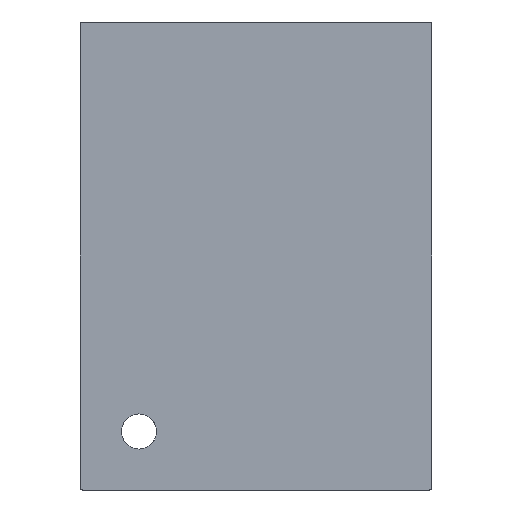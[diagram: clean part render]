
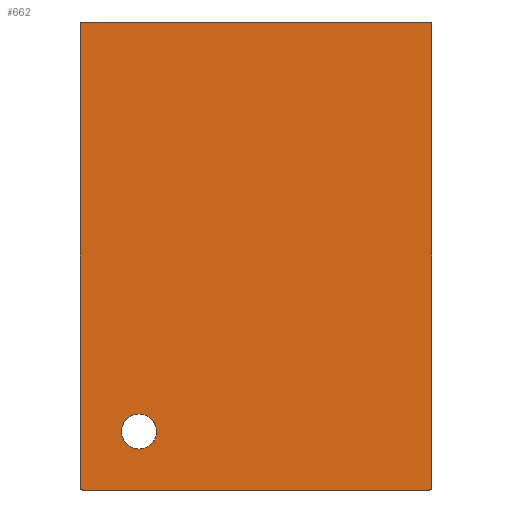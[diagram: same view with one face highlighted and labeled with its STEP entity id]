
A CAD part, front view. The second image highlights one B-rep face of the part: STEP entity #662.
In plain terms, the highlighted planar face has unit normal (0, -1, 0).
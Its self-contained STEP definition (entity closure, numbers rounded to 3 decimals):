
#28=FACE_BOUND('',#101,.T.);
#32=PLANE('',#727);
#53=FACE_OUTER_BOUND('',#100,.T.);
#100=EDGE_LOOP('',(#451,#452,#453,#454,#455,#456,#457,#458));
#101=EDGE_LOOP('',(#459));
#149=LINE('',#1057,#195);
#152=LINE('',#1063,#198);
#153=LINE('',#1067,#199);
#154=LINE('',#1071,#200);
#195=VECTOR('',#829,10.);
#198=VECTOR('',#834,10.);
#199=VECTOR('',#837,10.);
#200=VECTOR('',#840,10.);
#239=CIRCLE('',#721,5.);
#243=CIRCLE('',#728,5.);
#244=CIRCLE('',#729,5.);
#245=CIRCLE('',#730,5.);
#246=CIRCLE('',#731,45.);
#286=VERTEX_POINT('',#1043);
#287=VERTEX_POINT('',#1044);
#291=VERTEX_POINT('',#1056);
#293=VERTEX_POINT('',#1062);
#294=VERTEX_POINT('',#1064);
#295=VERTEX_POINT('',#1066);
#296=VERTEX_POINT('',#1068);
#297=VERTEX_POINT('',#1070);
#298=VERTEX_POINT('',#1073);
#341=EDGE_CURVE('',#286,#287,#239,.T.);
#347=EDGE_CURVE('',#291,#287,#149,.T.);
#350=EDGE_CURVE('',#286,#293,#152,.T.);
#351=EDGE_CURVE('',#294,#293,#243,.T.);
#352=EDGE_CURVE('',#294,#295,#153,.T.);
#353=EDGE_CURVE('',#296,#295,#244,.T.);
#354=EDGE_CURVE('',#296,#297,#154,.T.);
#355=EDGE_CURVE('',#291,#297,#245,.T.);
#356=EDGE_CURVE('',#298,#298,#246,.T.);
#451=ORIENTED_EDGE('',*,*,#341,.F.);
#452=ORIENTED_EDGE('',*,*,#350,.T.);
#453=ORIENTED_EDGE('',*,*,#351,.F.);
#454=ORIENTED_EDGE('',*,*,#352,.T.);
#455=ORIENTED_EDGE('',*,*,#353,.F.);
#456=ORIENTED_EDGE('',*,*,#354,.T.);
#457=ORIENTED_EDGE('',*,*,#355,.F.);
#458=ORIENTED_EDGE('',*,*,#347,.T.);
#459=ORIENTED_EDGE('',*,*,#356,.T.);
#662=ADVANCED_FACE('',(#53,#28),#32,.F.);
#721=AXIS2_PLACEMENT_3D('',#1045,#815,#816);
#727=AXIS2_PLACEMENT_3D('',#1061,#832,#833);
#728=AXIS2_PLACEMENT_3D('',#1065,#835,#836);
#729=AXIS2_PLACEMENT_3D('',#1069,#838,#839);
#730=AXIS2_PLACEMENT_3D('',#1072,#841,#842);
#731=AXIS2_PLACEMENT_3D('',#1074,#843,#844);
#815=DIRECTION('center_axis',(0.,1.,0.));
#816=DIRECTION('ref_axis',(-0.707,0.,-0.707));
#829=DIRECTION('',(0.,0.,-1.));
#832=DIRECTION('center_axis',(0.,1.,0.));
#833=DIRECTION('ref_axis',(0.,0.,1.));
#834=DIRECTION('',(1.,0.,0.));
#835=DIRECTION('center_axis',(0.,1.,0.));
#836=DIRECTION('ref_axis',(0.707,0.,-0.707));
#837=DIRECTION('',(0.,0.,1.));
#838=DIRECTION('center_axis',(0.,1.,0.));
#839=DIRECTION('ref_axis',(0.707,0.,0.707));
#840=DIRECTION('',(-1.,0.,0.));
#841=DIRECTION('center_axis',(0.,1.,0.));
#842=DIRECTION('ref_axis',(-0.707,0.,0.707));
#843=DIRECTION('center_axis',(0.,1.,0.));
#844=DIRECTION('ref_axis',(0.,0.,-1.));
#1043=CARTESIAN_POINT('',(-445.,0.,-600.));
#1044=CARTESIAN_POINT('',(-450.,0.,-595.));
#1045=CARTESIAN_POINT('Origin',(-445.,0.,-595.));
#1056=CARTESIAN_POINT('',(-450.,0.,595.));
#1057=CARTESIAN_POINT('',(-450.,0.,600.));
#1061=CARTESIAN_POINT('Origin',(0.,0.,0.));
#1062=CARTESIAN_POINT('',(445.,0.,-600.));
#1063=CARTESIAN_POINT('',(-450.,0.,-600.));
#1064=CARTESIAN_POINT('',(450.,0.,-595.));
#1065=CARTESIAN_POINT('Origin',(445.,0.,-595.));
#1066=CARTESIAN_POINT('',(450.,0.,595.));
#1067=CARTESIAN_POINT('',(450.,0.,-600.));
#1068=CARTESIAN_POINT('',(445.,0.,600.));
#1069=CARTESIAN_POINT('Origin',(445.,0.,595.));
#1070=CARTESIAN_POINT('',(-445.,0.,600.));
#1071=CARTESIAN_POINT('',(450.,0.,600.));
#1072=CARTESIAN_POINT('Origin',(-445.,0.,595.));
#1073=CARTESIAN_POINT('',(-300.,0.,-405.));
#1074=CARTESIAN_POINT('Origin',(-300.,0.,-450.));
